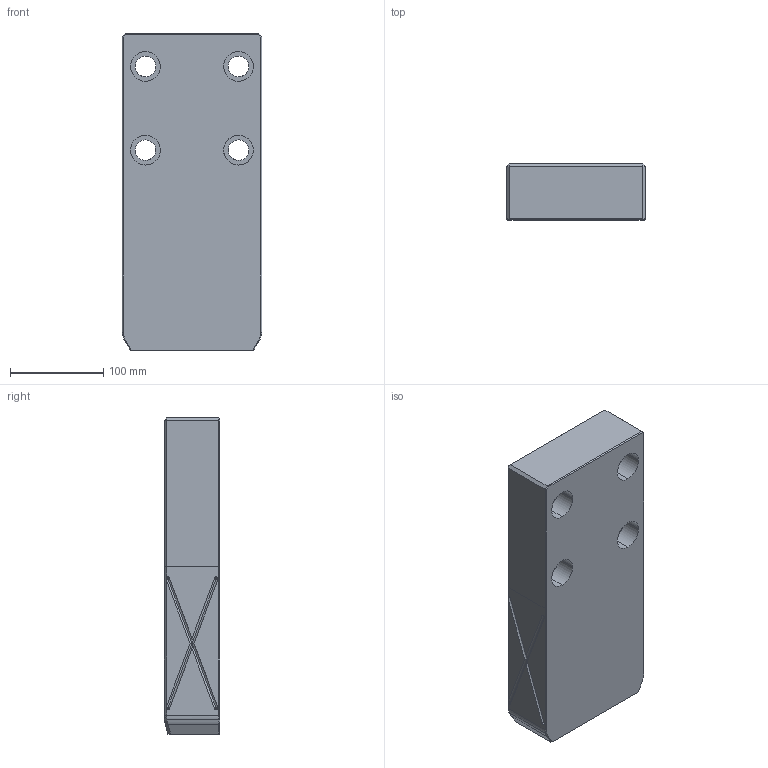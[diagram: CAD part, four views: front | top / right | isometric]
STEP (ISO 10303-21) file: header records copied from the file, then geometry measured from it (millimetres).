
FILE_DESCRIPTION(('CATIA V5 STEP Exchange'),'2;1');
FILE_NAME('D:\temp\color-modify-100929\GWB_6644-6654_R00\3d_gwb150-180-340_6652_r00.stp','2010-09-29T05:19:09+00:00',('none'),('none'),'CATIA Version 5 Release 18 SP 5 (IN-10)','CATIA V5 STEP AP214','none');
FILE_SCHEMA(('AUTOMOTIVE_DESIGN { 1 0 10303 214 1 1 1 1 }'));
Length unit declared in the file: millimetre
Products named in the file (1): GWB150-180-340
Bounding box: 150 x 60 x 340 mm (x, y, z)
Volume: 2904937.4 mm3; surface area: 176686.9 mm2
Topology: 1 solids, 1 shells, 139 faces, 363 edges, 208 vertices
Faces by surface type: cylinder 66, plane 39, revolution 24, bspline 6, cone 4
Entity records: 5230 total; most frequent: CARTESIAN_POINT 2270, ORIENTED_EDGE 678, DIRECTION 434, EDGE_CURVE 339, VERTEX_POINT 208, B_SPLINE_CURVE_WITH_KNOTS 171, EDGE_LOOP 153, VECTOR 152
